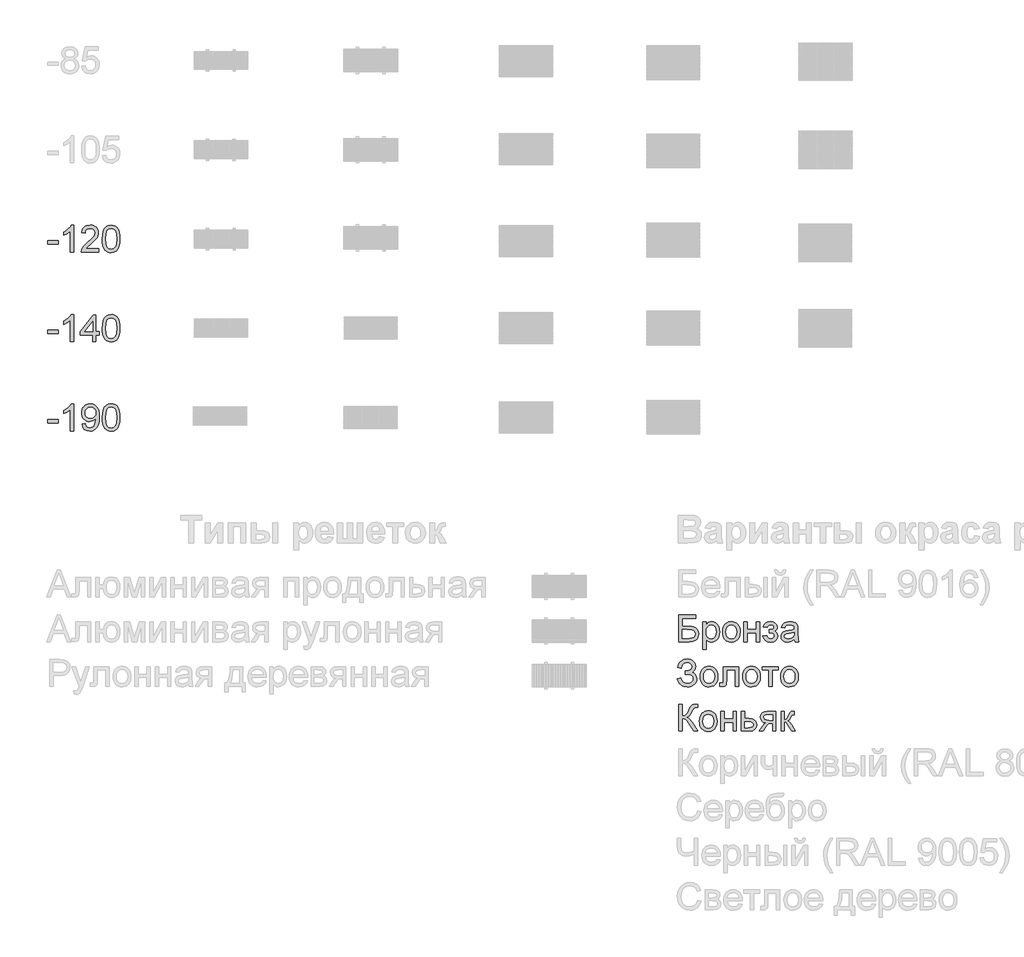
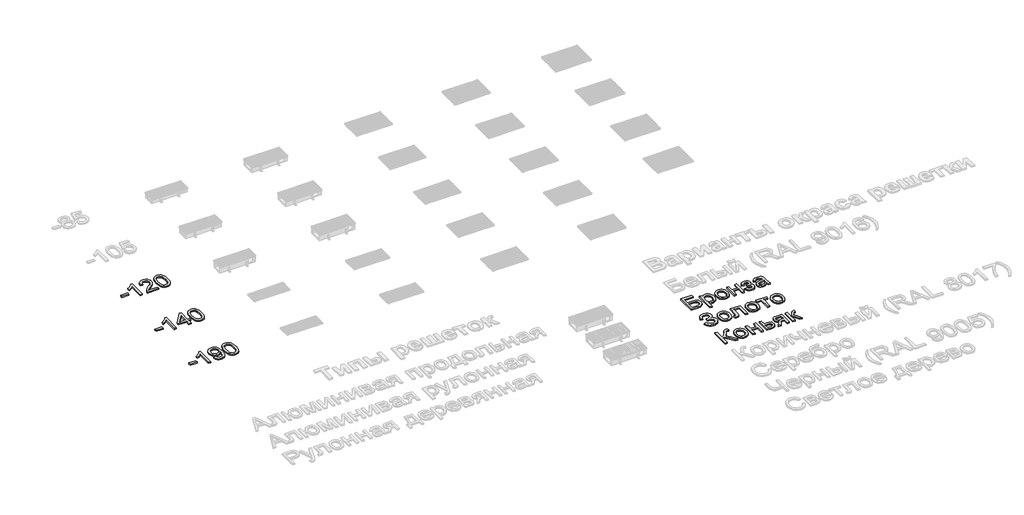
# One storey, part 5 of 12: 6 proxies.
"""IFC4 building model written with IfcOpenShell, lengths in millimetres."""

import ifcopenshell
import ifcopenshell.guid

model = None  # the IFC model being written
_history = None  # IfcOwnerHistory: only IFC2X3 demands one
_inside = {}  # id of a spatial element -> (the spatial element, [elements in it])
_under = {}  # id of a project, library or spatial element -> (it, [spatial elements below it])
_declared = {}  # id of a project -> (the project, [libraries it declares])
_typed = {}  # id of a type object -> (the type object, [elements of that type])
_made_of = {}  # id of a material, layer set ... -> (it, [elements and type objects made of it])


def new_model(schema):
    """Start an empty IFC model of exactly this schema.

    Asked for "IFC4X3", IfcOpenShell would pick the latest addendum, in which some entities
    have other attributes; the version numbers below select the first issue.
    IFC2X3 requires an IfcOwnerHistory on every rooted entity: one is made here for all.
    """
    global model, _history
    if schema == "IFC4X3":
        model = ifcopenshell.file(schema_version=(4, 3, 0, 0))
    else:
        model = ifcopenshell.file(schema=schema)
    _inside.clear()
    _under.clear()
    _declared.clear()
    _typed.clear()
    _made_of.clear()
    _history = None
    if model.schema == "IFC2X3":
        org = make("IfcOrganization", Name="unknown")
        user = make(
            "IfcPersonAndOrganization",
            ThePerson=make("IfcPerson", FamilyName="unknown"),
            TheOrganization=org,
        )
        app = make(
            "IfcApplication",
            ApplicationDeveloper=org,
            Version="unknown",
            ApplicationFullName="unknown",
            ApplicationIdentifier="unknown",
        )
        _history = make(
            "IfcOwnerHistory",
            OwningUser=user,
            OwningApplication=app,
            ChangeAction="ADDED",
            CreationDate=0,
        )
    return model


def make(cls, **values):
    """One entity of the class cls with the attributes given. An attribute that is None is left unset."""
    return model.create_entity(
        cls, **{name: value for name, value in values.items() if value is not None}
    )


def rooted(cls, **values):
    """An entity with a GlobalId (a new one), such as an element, a storey or a relation."""
    return make(cls, GlobalId=ifcopenshell.guid.new(), OwnerHistory=_history, **values)


def si_unit(unit_type, name, prefix=None):
    """IfcSIUnit, for example si_unit("LENGTHUNIT", "METRE", prefix="MILLI")."""
    return make("IfcSIUnit", UnitType=unit_type, Prefix=prefix, Name=name)


def assignment(units):
    """IfcUnitAssignment: the units of a project."""
    return None if units is None else make("IfcUnitAssignment", Units=units)


def point(xyz):
    """IfcCartesianPoint."""
    return None if xyz is None else make("IfcCartesianPoint", Coordinates=xyz)


def direction(xyz):
    """IfcDirection."""
    return None if xyz is None else make("IfcDirection", DirectionRatios=xyz)


def frame(location, z_axis=None, x_axis=None):
    """IfcAxis2Placement3D, a coordinate frame: its origin and axes. An axis left out is left unset."""
    return make(
        "IfcAxis2Placement3D",
        Location=point(location),
        Axis=direction(z_axis),
        RefDirection=direction(x_axis),
    )


def origin():
    """The frame at (0, 0, 0) with its axes left unset."""
    return frame((0.0, 0.0, 0.0))


def origin_with_axes():
    """The frame at (0, 0, 0) with the z axis (0, 0, 1) and the x axis (1, 0, 0) written out."""
    return frame((0.0, 0.0, 0.0), z_axis=(0.0, 0.0, 1.0), x_axis=(1.0, 0.0, 0.0))


def place(relative_to, where):
    """IfcLocalPlacement: puts the frame where relative to a parent placement (None: the world)."""
    return make(
        "IfcLocalPlacement", PlacementRelTo=relative_to, RelativePlacement=where
    )


def context(
    kind, dimensions, precision=None, world=None, true_north=None, identifier=None
):
    """IfcGeometricRepresentationContext, for example the 3D "Model" context."""
    return make(
        "IfcGeometricRepresentationContext",
        ContextIdentifier=identifier,
        ContextType=kind,
        CoordinateSpaceDimension=dimensions,
        Precision=precision,
        WorldCoordinateSystem=world,
        TrueNorth=true_north,
    )


def project(units=None, contexts=None):
    """IfcProject with its units and contexts."""
    return rooted(
        "IfcProject",
        Name="project",
        RepresentationContexts=contexts,
        UnitsInContext=assignment(units),
    )


def spatial(cls, under=None, at=None, **own):
    """A site, building, storey or space (cls), placed at a placement, below another one or the project."""
    s = rooted(cls, ObjectPlacement=at, **own)
    if under is not None:
        _under.setdefault(under.id(), (under, []))[1].append(s)
    return s


def polyline(points):
    """IfcPolyline through the points."""
    return make("IfcPolyline", Points=[point(p) for p in points])


def outline(outer, holes=None, kind="AREA"):
    """IfcArbitraryClosedProfileDef: a profile drawn as a closed curve; with holes, ...WithVoids."""
    if holes is None:
        return make("IfcArbitraryClosedProfileDef", ProfileType=kind, OuterCurve=outer)
    return make(
        "IfcArbitraryProfileDefWithVoids",
        ProfileType=kind,
        OuterCurve=outer,
        InnerCurves=holes,
    )


def extrude(swept, where, along, depth):
    """IfcExtrudedAreaSolid: the profile swept, set in the frame where, extruded along a direction by depth."""
    return make(
        "IfcExtrudedAreaSolid",
        SweptArea=swept,
        Position=where,
        ExtrudedDirection=direction(along),
        Depth=depth,
    )


def shape(context_of_items, identifier, shape_type, items):
    """IfcShapeRepresentation: the items that make up one representation, for example the "Body"."""
    return make(
        "IfcShapeRepresentation",
        ContextOfItems=context_of_items,
        RepresentationIdentifier=identifier,
        RepresentationType=shape_type,
        Items=items,
    )


def made_of(thing, what):
    """Note that an element or type object is made of a material, layer set ...; save() writes the relation."""
    if what is not None:
        _made_of.setdefault(what.id(), (what, []))[1].append(thing)
    return thing


def element(
    cls,
    number,
    at=None,
    inside=None,
    cuts=None,
    type_object=None,
    material=None,
    context=None,
    identifier="Body",
    shape_type=None,
    held_by="IfcProductDefinitionShape",
    body=None,
    shapes=None,
    **own,
):
    """One element of the class cls, such as IfcWall. Its Tag is "e" and its number.

    at: its placement. inside: the storey or other place that contains it. cuts: it is an
    opening in that element (IfcRelVoidsElement). A single representation is given by context,
    identifier, shape_type and body (its items); several are given by shapes. held_by: the class
    of the entity that holds the representations. save() writes the other relations.
    """
    e = rooted(cls, Tag="e%d" % number, ObjectPlacement=at, **own)
    if body is not None:
        shapes = [shape(context, identifier, shape_type, body)]
    if shapes is not None:
        e.Representation = make(held_by, Representations=shapes)
    if inside is not None:
        _inside.setdefault(inside.id(), (inside, []))[1].append(e)
    if cuts is not None:
        rooted(
            "IfcRelVoidsElement", RelatingBuildingElement=cuts, RelatedOpeningElement=e
        )
    if type_object is not None:
        _typed.setdefault(type_object.id(), (type_object, []))[1].append(e)
    return made_of(e, material)


def aggregate(whole, parts):
    """IfcRelAggregates: a whole, such as a stair, and the parts it consists of."""
    return rooted("IfcRelAggregates", RelatingObject=whole, RelatedObjects=parts)


def save(model, path):
    """Write the relations noted so far, then the file.

    IfcRelAggregates (storeys below a building ...), IfcRelContainedInSpatialStructure (elements
    in a storey), IfcRelDefinesByType, IfcRelAssociatesMaterial and IfcRelDeclares: one each for
    every whole, place, type object, material and project.
    """
    for whole, parts in _under.values():
        aggregate(whole, parts)
    for where, things in _inside.values():
        rooted(
            "IfcRelContainedInSpatialStructure",
            RelatedElements=things,
            RelatingStructure=where,
        )
    for kind, things in _typed.values():
        rooted("IfcRelDefinesByType", RelatedObjects=things, RelatingType=kind)
    for what, things in _made_of.values():
        rooted("IfcRelAssociatesMaterial", RelatedObjects=things, RelatingMaterial=what)
    for by, libraries in _declared.values():
        rooted("IfcRelDeclares", RelatingContext=by, RelatedDefinitions=libraries)
    model.write(path)


model = new_model("IFC4")

# Units and contexts
model_context = context("Model", 3, world=origin())
ifc_project = project(units=[si_unit("LENGTHUNIT", "METRE", prefix="MILLI")], contexts=[model_context])

# Site, building, storey
site = spatial("IfcSite", under=ifc_project)
building = spatial("IfcBuilding", under=site)
storey = spatial("IfcBuildingStorey", under=building, Name="Уровень 1", Elevation=0.0)

# Proxies
placement = place(None, origin())
element("IfcBuildingElementProxy", 1, Name="300", ObjectType="300", at=placement, inside=storey, context=model_context, shape_type="SweptSolid", body=[
    extrude(outline(polyline([(40.1853532, -8963.6447251), (40.1853532, -8925.9736087), (157.9075917, -8925.9736087), (157.9075917, -8963.6447251), (40.1853532, -8963.6447251)])), origin_with_axes(), (0.0, 0.0, 1.0), 20.0),
    extrude(outline(polyline([(332.1365046, -9053.1136263), (294.4653883, -9053.1136263), (294.4653883, -8818.2577606), (258.7808348, -8843.6784064), (219.1231557, -8862.6979056), (219.1231557, -8827.0869284), (248.7100652, -8810.9920912), (274.3422432, -8791.8438333), (294.5481618, -8771.4815649), (307.8562929, -8751.7446958), (332.1365046, -8751.7446958), (332.1365046, -9053.1136263)])), origin_with_axes(), (0.0, 0.0, 1.0), 20.0),
    extrude(outline(polyline([(614.6698769, -9015.44251), (614.6698769, -9053.1136263), (416.8965163, -9053.1136263), (420.9432182, -9027.1411574), (430.2322386, -9006.8432683), (443.8254783, -8987.1523845), (463.488771, -8966.5417958), (490.9879501, -8943.4847917), (531.6389106, -8907.3771739), (556.0294869, -8880.7241233), (568.224775, -8859.092662), (572.2898711, -8838.0498119), (568.4547013, -8819.1866626), (556.9491919, -8803.5056926), (539.2632649, -8792.9382822), (516.8868426, -8789.4158121), (493.3883801, -8792.8555088), (475.1322361, -8803.1745988), (463.3508152, -8819.5637416), (459.2765221, -8841.2135971), (421.6054058, -8836.5047075), (430.7380764, -8800.0659959), (439.284435, -8785.5300586), (450.4841425, -8773.4497335), (464.0796814, -8763.9537795), (479.8135345, -8757.1709553), (517.696183, -8751.7446958), (537.8860067, -8753.253012), (555.8547429, -8757.7779606), (571.6023916, -8765.3195415), (585.1289527, -8775.8777547), (595.9929679, -8788.6708511), (603.7529787, -8802.9170814), (608.4089852, -8818.6164455), (609.9609874, -8835.7689435), (608.2871243, -8853.7859642), (603.2655351, -8871.4902853), (594.3535937, -8889.4981089), (581.0086743, -8908.4256376), (559.735898, -8931.0227891), (527.0403857, -8960.0394815), (483.7038866, -8996.275858), (466.7077384, -9015.44251), (614.6698769, -9015.44251)])), origin_with_axes(), (0.0, 0.0, 1.0), 20.0),
    extrude(outline(polyline([(652.3409932, -8904.8571822), (655.1093052, -8856.6186556), (663.4142413, -8818.147396), (677.1730279, -8788.8547921), (696.3028916, -8768.1522328), (720.9417883, -8755.8465801), (751.2276735, -8751.7446958), (774.4410274, -8754.172717), (795.2263601, -8761.4567805), (812.6087844, -8773.3117778), (825.6134129, -8789.4526003), (835.4358622, -8809.7412924), (843.2717487, -8834.0398982), (848.4037025, -8864.8960005), (850.1143538, -8904.8571822), (847.373633, -8952.8197973), (839.1514704, -8991.1990865), (825.4754572, -9020.5192815), (806.3731846, -9041.3046142), (781.6791057, -9053.6930404), (751.2276735, -9057.8225158), (730.479129, -9056.0290911), (712.0850292, -9050.6488169), (696.0453742, -9041.6816933), (682.360164, -9029.1277202), (669.2267768, -9006.4339996), (659.8457859, -8978.1576698), (654.2171914, -8944.2987306), (652.3409932, -8904.8571822)]), holes=[polyline([(690.0121095, -8904.7836058), (694.4266935, -8964.0401982), (699.9449234, -8984.3081969), (707.6704453, -8998.3359972), (727.3889202, -9014.6975489), (751.2276735, -9020.1513995), (775.0664268, -9014.6791548), (794.7849017, -8998.2624208), (802.5104236, -8984.2116278), (808.0286536, -8963.9482277), (812.4432375, -8904.7836058), (808.1758064, -8846.8605857), (802.8415174, -8826.6592656), (795.3735129, -8812.2980722), (775.6918262, -8795.1363772), (750.7862151, -8789.4158121), (727.2049792, -8794.4557955), (708.2590565, -8809.5757455), (700.2760172, -8825.2107303), (694.5738463, -8846.2903686), (690.0121095, -8904.7836058)])]), origin_with_axes(), (0.0, 0.0, 1.0), 20.0),
])
element("IfcBuildingElementProxy", 2, Name="300", ObjectType="300", at=placement, inside=storey, context=model_context, shape_type="SweptSolid", body=[
    extrude(outline(polyline([(40.1853532, -9963.6447251), (40.1853532, -9925.9736087), (157.9075917, -9925.9736087), (157.9075917, -9963.6447251), (40.1853532, -9963.6447251)])), origin_with_axes(), (0.0, 0.0, 1.0), 20.0),
    extrude(outline(polyline([(332.1365046, -10053.1136263), (294.4653883, -10053.1136263), (294.4653883, -9818.2577606), (258.7808348, -9843.6784064), (219.1231557, -9862.6979056), (219.1231557, -9827.0869284), (248.7100652, -9810.9920912), (274.3422432, -9791.8438333), (294.5481618, -9771.4815649), (307.8562929, -9751.7446958), (332.1365046, -9751.7446958), (332.1365046, -10053.1136263)])), origin_with_axes(), (0.0, 0.0, 1.0), 20.0),
    extrude(outline(polyline([(544.0365338, -10053.1136263), (544.0365338, -9982.4802832), (407.4787372, -9982.4802832), (407.4787372, -9944.8091669), (553.4543129, -9756.4535854), (581.7076501, -9756.4535854), (581.7076501, -9944.8091669), (619.3787664, -9944.8091669), (619.3787664, -9982.4802832), (581.7076501, -9982.4802832), (581.7076501, -10053.1136263), (544.0365338, -10053.1136263)]), holes=[polyline([(544.0365338, -9944.8091669), (544.0365338, -9828.4113036), (453.8318686, -9944.8091669), (544.0365338, -9944.8091669)])]), origin_with_axes(), (0.0, 0.0, 1.0), 20.0),
    extrude(outline(polyline([(652.3409932, -9904.8571822), (655.1093052, -9856.6186556), (663.4142413, -9818.147396), (677.1730279, -9788.8547921), (696.3028916, -9768.1522328), (720.9417883, -9755.8465801), (751.2276735, -9751.7446958), (774.4410274, -9754.172717), (795.2263601, -9761.4567805), (812.6087844, -9773.3117778), (825.6134129, -9789.4526003), (835.4358622, -9809.7412924), (843.2717487, -9834.0398982), (848.4037025, -9864.8960005), (850.1143538, -9904.8571822), (847.373633, -9952.8197973), (839.1514704, -9991.1990865), (825.4754572, -10020.5192815), (806.3731846, -10041.3046142), (781.6791057, -10053.6930404), (751.2276735, -10057.8225158), (730.479129, -10056.0290911), (712.0850292, -10050.6488169), (696.0453742, -10041.6816933), (682.360164, -10029.1277202), (669.2267768, -10006.4339996), (659.8457859, -9978.1576698), (654.2171914, -9944.2987306), (652.3409932, -9904.8571822)]), holes=[polyline([(690.0121095, -9904.7836058), (694.4266935, -9964.0401982), (699.9449234, -9984.3081969), (707.6704453, -9998.3359972), (727.3889202, -10014.6975489), (751.2276735, -10020.1513995), (775.0664268, -10014.6791548), (794.7849017, -9998.2624208), (802.5104236, -9984.2116278), (808.0286536, -9963.9482277), (812.4432375, -9904.7836058), (808.1758064, -9846.8605857), (802.8415174, -9826.6592656), (795.3735129, -9812.2980722), (775.6918262, -9795.1363772), (750.7862151, -9789.4158121), (727.2049792, -9794.4557955), (708.2590565, -9809.5757455), (700.2760172, -9825.2107303), (694.5738463, -9846.2903686), (690.0121095, -9904.7836058)])]), origin_with_axes(), (0.0, 0.0, 1.0), 20.0),
])
element("IfcBuildingElementProxy", 3, Name="300", ObjectType="300", at=placement, inside=storey, context=model_context, shape_type="SweptSolid", body=[
    extrude(outline(polyline([(7102.1636245, -13113.7438159), (7290.519206, -13113.7438159), (7290.519206, -13151.4149322), (7139.8347408, -13151.4149322), (7139.8347408, -13240.8838335), (7210.3945075, -13240.8838335), (7245.4720557, -13242.7968198), (7272.5665647, -13248.535779), (7293.3702915, -13259.5906329), (7309.5754934, -13277.4513038), (7320.0049479, -13300.4439285), (7323.4814328, -13326.8946439), (7321.0074264, -13349.1055194), (7313.5854071, -13369.8264728), (7301.2521632, -13387.9722522), (7284.0444829, -13402.4576057), (7257.501797, -13411.9489612), (7217.1635362, -13415.1127464), (7102.1636245, -13415.1127464), (7102.1636245, -13113.7438159)]), holes=[polyline([(7139.8347408, -13377.4416301), (7220.5480505, -13377.4416301), (7249.0772993, -13374.3330272), (7269.4763559, -13365.0072186), (7281.7268263, -13349.4642043), (7285.8103165, -13327.7039843), (7283.4742658, -13311.4987824), (7276.4661138, -13298.1998483), (7265.2916982, -13288.3406108), (7250.4568567, -13282.4544989), (7193.6926649, -13278.5549498), (7139.8347408, -13278.5549498), (7139.8347408, -13377.4416301)])]), origin_with_axes(), (0.0, 0.0, 1.0), 20.0),
    extrude(outline(polyline([(7370.5703282, -13499.8727581), (7370.5703282, -13193.7949381), (7408.2414445, -13193.7949381), (7408.2414445, -13230.7302904), (7420.5287031, -13212.5109346), (7434.2874897, -13199.497109), (7450.3271447, -13191.6888137), (7469.4570085, -13189.0860485), (7494.9328366, -13192.7280803), (7517.2080914, -13203.6541756), (7535.3446738, -13221.2021467), (7548.4044846, -13244.7098062), (7556.2955534, -13272.4665028), (7558.9259097, -13302.7615851), (7555.9552626, -13334.9788508), (7547.0433213, -13363.7932081), (7532.4751942, -13387.7423259), (7512.5359901, -13405.3638735), (7489.3134392, -13416.2071953), (7464.8952717, -13419.8216359), (7447.5772268, -13417.4028118), (7432.116986, -13410.1463394), (7418.8824312, -13399.192653), (7408.2414445, -13385.6821868), (7408.2414445, -13499.8727581), (7370.5703282, -13499.8727581)]), holes=[polyline([(7408.2414445, -13306.2196758), (7412.3157376, -13339.991243), (7424.5386169, -13363.6092671), (7442.5740317, -13377.5152065), (7464.0859313, -13382.1505196), (7485.9473189, -13377.3496596), (7504.4425862, -13362.9470795), (7517.0517416, -13338.4645327), (7521.2547934, -13303.4237726), (7517.1529092, -13269.8361465), (7504.8472564, -13245.8870286), (7486.8394327, -13231.5396308), (7465.6310357, -13226.7571648), (7444.3398653, -13231.8431334), (7425.6422628, -13247.1010392), (7412.5916491, -13272.0526355), (7408.2414445, -13306.2196758)])]), origin_with_axes(), (0.0, 0.0, 1.0), 20.0),
    extrude(outline(polyline([(7591.8881365, -13304.4538422), (7593.925283, -13275.7912363), (7600.0367227, -13251.0925588), (7610.2224554, -13230.3578099), (7624.4824812, -13213.5869894), (7638.8390761, -13202.8678278), (7654.685593, -13195.2112838), (7672.0220321, -13190.6173573), (7690.8483932, -13189.0860485), (7711.6314266, -13190.9507504), (7730.4232988, -13196.544856), (7747.2240097, -13205.8683653), (7762.0335592, -13218.9212784), (7774.120782, -13235.2621367), (7782.7545126, -13254.449482), (7787.934751, -13276.4833143), (7789.6614971, -13301.3636335), (7786.6080765, -13339.4210259), (7777.4478148, -13368.391733), (7762.4474265, -13390.0875737), (7741.8736259, -13406.3203667), (7717.4370644, -13416.4463186), (7690.8483932, -13419.8216359), (7669.7618571, -13417.9638318), (7650.7952409, -13412.3904196), (7633.9485448, -13403.1013992), (7619.2217687, -13390.0967707), (7607.2633046, -13373.5972632), (7598.7215445, -13353.823606), (7593.5964885, -13330.775799), (7591.8881365, -13304.4538422)]), holes=[polyline([(7629.5592528, -13304.3802658), (7633.9186544, -13338.4737297), (7646.9968593, -13362.7631385), (7666.6785461, -13377.3036743), (7690.8483932, -13382.1505196), (7714.9078757, -13377.2760832), (7734.5527742, -13362.6527739), (7747.6309791, -13338.0414684), (7751.9903808, -13303.2030434), (7747.603388, -13270.1028609), (7734.4424096, -13246.144546), (7714.7699199, -13231.6040101), (7690.8483932, -13226.7571648), (7666.6785461, -13231.585616), (7646.9968593, -13246.0709696), (7633.9186544, -13270.305196), (7629.5592528, -13304.3802658)])]), origin_with_axes(), (0.0, 0.0, 1.0), 20.0),
    extrude(outline(polyline([(7832.0415029, -13193.7949381), (7869.7126192, -13193.7949381), (7869.7126192, -13278.5549498), (7968.5992995, -13278.5549498), (7968.5992995, -13193.7949381), (8006.2704158, -13193.7949381), (8006.2704158, -13415.1127464), (7968.5992995, -13415.1127464), (7968.5992995, -13316.2260661), (7869.7126192, -13316.2260661), (7869.7126192, -13415.1127464), (7832.0415029, -13415.1127464), (7832.0415029, -13193.7949381)])), origin_with_axes(), (0.0, 0.0, 1.0), 20.0),
    extrude(outline(polyline([(8114.5748752, -13316.2260661), (8114.5748752, -13278.5549498), (8144.2997404, -13277.0834218), (8159.3093258, -13269.2475353), (8164.6068266, -13261.8990924), (8166.3726601, -13252.8767865), (8164.0090183, -13242.1622234), (8156.9180929, -13233.8572874), (8146.0931652, -13228.5321955), (8132.5275166, -13226.7571648), (8118.8147152, -13228.5229984), (8107.3275999, -13233.8204992), (8098.0661707, -13242.649667), (8091.0304275, -13255.0105021), (8048.6504217, -13250.3016125), (8059.8892166, -13223.5198033), (8076.9773353, -13204.3899395), (8099.9147777, -13192.9120213), (8128.7015438, -13189.0860485), (8160.1922426, -13193.7489528), (8184.0309959, -13207.7376657), (8199.0405813, -13228.2011017), (8204.0437764, -13252.2881753), (8202.2641473, -13264.6490104), (8196.9252598, -13275.6854702), (8188.0271141, -13285.3975549), (8175.56971, -13293.7852644), (8190.1102459, -13304.2515071), (8200.4753211, -13317.2561357), (8206.6833298, -13332.8359382), (8208.752666, -13351.0277028), (8203.5011505, -13378.7568082), (8187.7466041, -13400.7285604), (8162.5558844, -13415.048367), (8128.9958494, -13419.8216359), (8096.1715784, -13415.407052), (8071.0544352, -13402.1633002), (8053.6444198, -13380.0903804), (8043.9415321, -13349.1882928), (8086.321538, -13344.4794033), (8092.6675024, -13360.4086937), (8103.3176862, -13372.2912821), (8117.0396846, -13379.6857102), (8132.601093, -13382.1505196), (8147.7578312, -13379.7868778), (8160.1186662, -13372.6959523), (8168.3408288, -13361.9262069), (8171.0815497, -13348.5261053), (8169.3800954, -13337.9127097), (8164.2757328, -13328.7340539), (8149.7811822, -13318.1390525), (8121.9325151, -13316.0053369), (8114.5748752, -13316.2260661)])), origin_with_axes(), (0.0, 0.0, 1.0), 20.0),
    extrude(outline(polyline([(8397.1082475, -13386.8594092), (8379.1096209, -13402.2920588), (8360.5775654, -13412.3904196), (8341.0890167, -13417.9638318), (8320.2209105, -13419.8216359), (8288.7394088, -13415.3518697), (8265.5168578, -13401.942571), (8251.1970512, -13381.5803025), (8246.4237823, -13356.2516272), (8248.2264041, -13340.6350365), (8253.6342694, -13326.4531855), (8261.9759936, -13314.3130797), (8272.5801921, -13304.8217242), (8298.9573312, -13292.4608892), (8331.551676, -13286.7955065), (8370.0689209, -13280.8358181), (8396.8875183, -13273.8460602), (8397.1082475, -13265.4583507), (8394.5146794, -13248.6461436), (8386.7339752, -13237.6464719), (8369.3331569, -13229.4794916), (8345.0897334, -13226.7571648), (8322.6489317, -13228.5689837), (8306.9771587, -13234.0044402), (8296.2901867, -13244.0568157), (8288.8037881, -13259.7193916), (8251.1326718, -13255.0105021), (8257.6717743, -13234.4091103), (8267.4298442, -13218.2223026), (8281.3173895, -13205.8430734), (8300.2449182, -13196.6644176), (8323.3938927, -13190.9806408), (8349.9457757, -13189.0860485), (8375.4124068, -13190.7599116), (8395.5999313, -13195.7815009), (8410.8210489, -13203.3322788), (8421.3884592, -13212.593708), (8428.3966112, -13224.0440351), (8432.9399538, -13238.1615067), (8434.7793638, -13271.1237335), (8434.7793638, -13317.9918997), (8436.6923502, -13383.4381066), (8444.1971429, -13415.1127464), (8406.5260266, -13415.1127464), (8397.1082475, -13386.8594092)]), holes=[polyline([(8397.1082475, -13311.5171765), (8336.3341419, -13323.0686712), (8303.9237381, -13329.1755123), (8289.2452465, -13339.1083262), (8284.0948986, -13353.6028768), (8286.8999988, -13364.8048835), (8295.3152994, -13373.9835393), (8309.1568595, -13380.1087745), (8328.240738, -13382.1505196), (8348.4742478, -13379.8972424), (8366.3533127, -13373.1374107), (8380.8478633, -13363.1770057), (8390.92783, -13351.3220084), (8395.3975962, -13339.1083262), (8396.8875183, -13322.1857544), (8397.1082475, -13311.5171765)])]), origin_with_axes(), (0.0, 0.0, 1.0), 20.0),
])
element("IfcBuildingElementProxy", 4, Name="300", ObjectType="300", at=placement, inside=storey, context=model_context, shape_type="SweptSolid", body=[
    extrude(outline(polyline([(7088.0369559, -13830.3527347), (7125.7080722, -13820.9349556), (7133.6635203, -13841.3248152), (7148.8478497, -13861.7330689), (7170.7092372, -13877.0461569), (7198.69586, -13882.1505196), (7227.0503648, -13878.3153498), (7248.6910232, -13866.8098404), (7262.4038245, -13849.8780716), (7266.9747583, -13829.7641235), (7261.9807602, -13808.6936822), (7246.998766, -13792.424101), (7223.4083331, -13782.0222376), (7192.5890189, -13778.5549498), (7172.7969676, -13778.5549498), (7172.7969676, -13740.8838335), (7215.4344908, -13737.8304129), (7229.3312332, -13732.4041535), (7241.5173243, -13722.2322163), (7250.0153984, -13708.8321146), (7252.8480897, -13693.7213617), (7249.0772993, -13675.9802525), (7237.7649279, -13660.7223467), (7220.0146216, -13650.2101187), (7196.9300264, -13646.7060427), (7176.0619203, -13649.4007783), (7158.486358, -13657.4849852), (7145.0218769, -13670.0205641), (7136.4870146, -13686.0694162), (7130.4169617, -13712.6304962), (7092.7458454, -13703.2127172), (7104.4490914, -13662.0099337), (7113.8634216, -13645.8231259), (7125.6528899, -13632.5793741), (7139.8174963, -13622.2786782), (7156.3572409, -13614.9210383), (7175.2721236, -13610.5064544), (7196.5621445, -13609.0349264), (7217.0738649, -13610.5639359), (7235.3461038, -13615.1509646), (7251.378861, -13622.7960123), (7265.1721366, -13633.4990791), (7276.2614794, -13646.2484895), (7284.1824387, -13660.032568), (7288.9350142, -13674.8513146), (7290.519206, -13690.7047293), (7288.0543967, -13710.5289703), (7280.6599686, -13727.9895695), (7268.3359217, -13743.0865269), (7251.0822561, -13755.8198425), (7272.0331358, -13765.4675478), (7289.2684072, -13781.7555231), (7300.8015078, -13803.2858169), (7304.6458746, -13828.6604775), (7302.8018661, -13847.2914013), (7297.2698406, -13864.335834), (7288.0497981, -13879.7937756), (7275.1417386, -13893.6652261), (7259.1894556, -13905.1086554), (7240.8367426, -13913.2825335), (7220.0835995, -13918.1868603), (7196.9300264, -13919.8216359), (7158.7254812, -13914.2298296), (7142.368528, -13907.2400717), (7127.8417878, -13897.4544106), (7115.1452604, -13884.8728464), (7104.278946, -13869.495379), (7088.0369559, -13830.3527347)])), origin_with_axes(), (0.0, 0.0, 1.0), 20.0),
    extrude(outline(polyline([(7342.3169909, -13804.4538422), (7344.3541375, -13775.7912363), (7350.4655771, -13751.0925588), (7360.6513099, -13730.3578099), (7374.9113357, -13713.5869894), (7389.2679306, -13702.8678278), (7405.1144475, -13695.2112838), (7422.4508865, -13690.6173573), (7441.2772476, -13689.0860485), (7462.0602811, -13690.9507504), (7480.8521533, -13696.544856), (7497.6528641, -13705.8683653), (7512.4624137, -13718.9212784), (7524.5496365, -13735.2621367), (7533.1833671, -13754.449482), (7538.3636054, -13776.4833143), (7540.0903515, -13801.3636335), (7537.036931, -13839.4210259), (7527.8766693, -13868.391733), (7512.876281, -13890.0875737), (7492.3024804, -13906.3203667), (7467.8659188, -13916.4463186), (7441.2772476, -13919.8216359), (7420.1907115, -13917.9638318), (7401.2240954, -13912.3904196), (7384.3773993, -13903.1013992), (7369.6506232, -13890.0967707), (7357.6921591, -13873.5972632), (7349.150399, -13853.823606), (7344.025343, -13830.775799), (7342.3169909, -13804.4538422)]), holes=[polyline([(7379.9881072, -13804.3802658), (7384.3475089, -13838.4737297), (7397.4257138, -13862.7631385), (7417.1074006, -13877.3036743), (7441.2772476, -13882.1505196), (7465.3367301, -13877.2760832), (7484.9816287, -13862.6527739), (7498.0598336, -13838.0414684), (7502.4192352, -13803.2030434), (7498.0322425, -13770.1028609), (7484.8712641, -13746.144546), (7465.1987744, -13731.6040101), (7441.2772476, -13726.7571648), (7417.1074006, -13731.585616), (7397.4257138, -13746.0709696), (7384.3475089, -13770.305196), (7379.9881072, -13804.3802658)])]), origin_with_axes(), (0.0, 0.0, 1.0), 20.0),
    extrude(outline(polyline([(7601.3059155, -13693.7949381), (7770.8259389, -13693.7949381), (7770.8259389, -13914.8920172), (7733.1548226, -13914.8920172), (7733.1548226, -13731.4660544), (7638.9770319, -13731.4660544), (7638.9770319, -13837.048187), (7636.4386461, -13885.7557632), (7631.6837713, -13896.783026), (7622.4959185, -13906.3203667), (7608.5531909, -13912.9146515), (7589.5336917, -13915.1127464), (7558.9259097, -13913.19976), (7558.9259097, -13877.4416301), (7575.7749051, -13877.4416301), (7592.8078415, -13875.1239735), (7599.6136584, -13867.7663336), (7601.3059155, -13834.9144714), (7601.3059155, -13693.7949381)])), origin_with_axes(), (0.0, 0.0, 1.0), 20.0),
    extrude(outline(polyline([(7817.9148343, -13804.4538422), (7819.9519809, -13775.7912363), (7826.0634205, -13751.0925588), (7836.2491532, -13730.3578099), (7850.5091791, -13713.5869894), (7864.8657739, -13702.8678278), (7880.7122909, -13695.2112838), (7898.0487299, -13690.6173573), (7916.875091, -13689.0860485), (7937.6581245, -13690.9507504), (7956.4499966, -13696.544856), (7973.2507075, -13705.8683653), (7988.0602571, -13718.9212784), (8000.1474799, -13735.2621367), (8008.7812105, -13754.449482), (8013.9614488, -13776.4833143), (8015.6881949, -13801.3636335), (8012.6347744, -13839.4210259), (8003.4745127, -13868.391733), (7988.4741243, -13890.0875737), (7967.9003237, -13906.3203667), (7943.4637622, -13916.4463186), (7916.875091, -13919.8216359), (7895.7885549, -13917.9638318), (7876.8219388, -13912.3904196), (7859.9752427, -13903.1013992), (7845.2484665, -13890.0967707), (7833.2900024, -13873.5972632), (7824.7482424, -13853.823606), (7819.6231863, -13830.775799), (7817.9148343, -13804.4538422)]), holes=[polyline([(7855.5859506, -13804.3802658), (7859.9453523, -13838.4737297), (7873.0235572, -13862.7631385), (7892.7052439, -13877.3036743), (7916.875091, -13882.1505196), (7940.9345735, -13877.2760832), (7960.579472, -13862.6527739), (7973.657677, -13838.0414684), (7978.0170786, -13803.2030434), (7973.6300858, -13770.1028609), (7960.4691074, -13746.144546), (7940.7966177, -13731.6040101), (7916.875091, -13726.7571648), (7892.7052439, -13731.585616), (7873.0235572, -13746.0709696), (7859.9453523, -13770.305196), (7855.5859506, -13804.3802658)])]), origin_with_axes(), (0.0, 0.0, 1.0), 20.0),
    extrude(outline(polyline([(8039.2326426, -13693.7949381), (8218.1704451, -13693.7949381), (8218.1704451, -13731.4660544), (8147.537102, -13731.4660544), (8147.537102, -13915.1127464), (8109.8659857, -13915.1127464), (8109.8659857, -13731.4660544), (8039.2326426, -13731.4660544), (8039.2326426, -13693.7949381)])), origin_with_axes(), (0.0, 0.0, 1.0), 20.0),
    extrude(outline(polyline([(8241.7148928, -13804.4538422), (8243.7520393, -13775.7912363), (8249.8634789, -13751.0925588), (8260.0492117, -13730.3578099), (8274.3092375, -13713.5869894), (8288.6658324, -13702.8678278), (8304.5123493, -13695.2112838), (8321.8487883, -13690.6173573), (8340.6751495, -13689.0860485), (8361.4581829, -13690.9507504), (8380.2500551, -13696.544856), (8397.050766, -13705.8683653), (8411.8603155, -13718.9212784), (8423.9475383, -13735.2621367), (8432.5812689, -13754.449482), (8437.7615072, -13776.4833143), (8439.4882534, -13801.3636335), (8436.4348328, -13839.4210259), (8427.2745711, -13868.391733), (8412.2741828, -13890.0875737), (8391.7003822, -13906.3203667), (8367.2638207, -13916.4463186), (8340.6751495, -13919.8216359), (8319.5886133, -13917.9638318), (8300.6219972, -13912.3904196), (8283.7753011, -13903.1013992), (8269.048525, -13890.0967707), (8257.0900609, -13873.5972632), (8248.5483008, -13853.823606), (8243.4232448, -13830.775799), (8241.7148928, -13804.4538422)]), holes=[polyline([(8279.3860091, -13804.3802658), (8283.7454107, -13838.4737297), (8296.8236156, -13862.7631385), (8316.5053024, -13877.3036743), (8340.6751495, -13882.1505196), (8364.7346319, -13877.2760832), (8384.3795305, -13862.6527739), (8397.4577354, -13838.0414684), (8401.8171371, -13803.2030434), (8397.4301443, -13770.1028609), (8384.2691659, -13746.144546), (8364.5966762, -13731.6040101), (8340.6751495, -13726.7571648), (8316.5053024, -13731.585616), (8296.8236156, -13746.0709696), (8283.7454107, -13770.305196), (8279.3860091, -13804.3802658)])]), origin_with_axes(), (0.0, 0.0, 1.0), 20.0),
])
element("IfcBuildingElementProxy", 5, Name="300", ObjectType="300", at=placement, inside=storey, context=model_context, shape_type="SweptSolid", body=[
    extrude(outline(polyline([(7102.1636245, -14113.7438159), (7139.8347408, -14113.7438159), (7139.8347408, -14245.592723), (7165.3381601, -14243.1003225), (7181.9572292, -14235.6231209), (7195.3941191, -14218.0291645), (7211.3510007, -14185.1864994), (7232.1363334, -14143.0640109), (7242.1611178, -14131.650472), (7255.6807811, -14122.2051018), (7271.7296331, -14115.8591374), (7289.3419836, -14113.7438159), (7314.0636537, -14114.1852743), (7314.0636537, -14151.8563906), (7305.7495206, -14151.6356614), (7297.4353875, -14151.4149322), (7280.181722, -14153.6774065), (7268.0048279, -14160.4648293), (7257.5201911, -14174.7202566), (7245.6376026, -14199.2395916), (7231.0602786, -14229.7737972), (7218.966158, -14246.4756398), (7192.9569009, -14262.0738364), (7207.5480205, -14268.2818451), (7222.0379726, -14279.1067728), (7250.7143741, -14314.6073853), (7314.0636537, -14415.1127464), (7270.3592727, -14415.1127464), (7216.7956542, -14330.2055819), (7196.111489, -14302.9731172), (7179.0877497, -14285.8758015), (7161.6777343, -14276.8534955), (7139.8347408, -14273.8460602), (7139.8347408, -14415.1127464), (7102.1636245, -14415.1127464), (7102.1636245, -14113.7438159)])), origin_with_axes(), (0.0, 0.0, 1.0), 20.0),
    extrude(outline(polyline([(7332.8992119, -14304.4538422), (7334.9363584, -14275.7912363), (7341.0477981, -14251.0925588), (7351.2335308, -14230.3578099), (7365.4935566, -14213.5869894), (7379.8501515, -14202.8678278), (7395.6966684, -14195.2112838), (7413.0331075, -14190.6173573), (7431.8594686, -14189.0860485), (7452.642502, -14190.9507504), (7471.4343742, -14196.544856), (7488.2350851, -14205.8683653), (7503.0446346, -14218.9212784), (7515.1318574, -14235.2621367), (7523.765588, -14254.449482), (7528.9458264, -14276.4833143), (7530.6725725, -14301.3636335), (7527.6191519, -14339.4210259), (7518.4588902, -14368.391733), (7503.4585019, -14390.0875737), (7482.8847013, -14406.3203667), (7458.4481398, -14416.4463186), (7431.8594686, -14419.8216359), (7410.7729325, -14417.9638318), (7391.8063163, -14412.3904196), (7374.9596202, -14403.1013992), (7360.2328441, -14390.0967707), (7348.27438, -14373.5972632), (7339.7326199, -14353.823606), (7334.6075639, -14330.775799), (7332.8992119, -14304.4538422)]), holes=[polyline([(7370.5703282, -14304.3802658), (7374.9297298, -14338.4737297), (7388.0079347, -14362.7631385), (7407.6896215, -14377.3036743), (7431.8594686, -14382.1505196), (7455.9189511, -14377.2760832), (7475.5638496, -14362.6527739), (7488.6420545, -14338.0414684), (7493.0014562, -14303.2030434), (7488.6144634, -14270.1028609), (7475.453485, -14246.144546), (7455.7809953, -14231.6040101), (7431.8594686, -14226.7571648), (7407.6896215, -14231.585616), (7388.0079347, -14246.0709696), (7374.9297298, -14270.305196), (7370.5703282, -14304.3802658)])]), origin_with_axes(), (0.0, 0.0, 1.0), 20.0),
    extrude(outline(polyline([(7573.0525783, -14193.7949381), (7610.7236946, -14193.7949381), (7610.7236946, -14278.5549498), (7709.6103749, -14278.5549498), (7709.6103749, -14193.7949381), (7747.2814912, -14193.7949381), (7747.2814912, -14415.1127464), (7709.6103749, -14415.1127464), (7709.6103749, -14316.2260661), (7610.7236946, -14316.2260661), (7610.7236946, -14415.1127464), (7573.0525783, -14415.1127464), (7573.0525783, -14193.7949381)])), origin_with_axes(), (0.0, 0.0, 1.0), 20.0),
    extrude(outline(polyline([(7803.7881657, -14193.7949381), (7841.459282, -14193.7949381), (7841.459282, -14273.8460602), (7884.8693574, -14273.8460602), (7922.5036855, -14278.5641468), (7937.6512267, -14284.4617551), (7950.3523526, -14292.7184066), (7960.395531, -14303.0489929), (7967.5692299, -14315.1684053), (7973.3081891, -14344.7737089), (7968.4245556, -14371.7302621), (7953.7736551, -14394.4745665), (7942.541758, -14403.5037702), (7928.3806004, -14409.9532014), (7891.2705041, -14415.1127464), (7803.7881657, -14415.1127464), (7803.7881657, -14193.7949381)]), holes=[polyline([(7841.459282, -14377.4416301), (7876.6288007, -14377.4416301), (7903.9164477, -14375.4642644), (7922.0622271, -14369.5321672), (7932.2433614, -14359.4062153), (7935.6370728, -14344.8472853), (7933.1262781, -14332.5416326), (7925.5938943, -14321.6707196), (7909.4530718, -14314.0555623), (7881.1169611, -14311.5171765), (7841.459282, -14311.5171765), (7841.459282, -14377.4416301)])]), origin_with_axes(), (0.0, 0.0, 1.0), 20.0),
    extrude(outline(polyline([(8189.9171078, -14193.7949381), (8189.9171078, -14415.1127464), (8152.2459915, -14415.1127464), (8152.2459915, -14330.3527347), (8131.7181762, -14330.3527347), (8103.7591446, -14335.1352006), (8092.593926, -14345.5646552), (8077.4923701, -14367.288087), (8047.4731993, -14415.1127464), (8003.9159711, -14415.1127464), (8041.7342402, -14354.6329464), (8058.4360828, -14332.9279087), (8073.8135502, -14323.2894004), (8048.0618105, -14315.3983316), (8029.9620163, -14300.4071403), (8019.2566503, -14280.4679361), (8015.6881949, -14257.7328288), (8020.5626313, -14231.944301), (8035.1859407, -14211.5268502), (8059.043088, -14198.2279161), (8091.6190387, -14193.7949381), (8189.9171078, -14193.7949381)]), holes=[polyline([(8152.2459915, -14231.4660544), (8102.5819222, -14231.4660544), (8076.9313501, -14233.6457552), (8062.3724201, -14240.1848577), (8055.6125884, -14249.648622), (8053.3593112, -14260.6023084), (8056.6794462, -14274.9589033), (8066.6398512, -14284.9193083), (8085.0431481, -14290.7410409), (8113.6919584, -14292.6816184), (8152.2459915, -14292.6816184), (8152.2459915, -14231.4660544)])]), origin_with_axes(), (0.0, 0.0, 1.0), 20.0),
    extrude(outline(polyline([(8246.4237823, -14193.7949381), (8284.0948986, -14193.7949381), (8284.0948986, -14287.9727288), (8299.4171837, -14286.2804717), (8309.3316035, -14281.2037001), (8318.105589, -14267.9599483), (8330.0065716, -14241.7667503), (8347.1866608, -14207.7376657), (8362.343399, -14196.6644176), (8389.8977604, -14193.7949381), (8397.1082475, -14193.7949381), (8397.1082475, -14231.6867836), (8386.9547044, -14231.4660544), (8368.5606047, -14235.4391799), (8355.6111585, -14260.2344264), (8340.4176321, -14287.0530239), (8319.1172645, -14300.1864111), (8331.0550353, -14305.4885103), (8342.8824414, -14314.8465086), (8366.2061599, -14345.7302021), (8406.5260266, -14415.1127464), (8363.7045624, -14415.1127464), (8324.1940361, -14347.2017301), (8304.3284083, -14318.4701462), (8295.039388, -14313.255419), (8284.0948986, -14311.5171765), (8284.0948986, -14415.1127464), (8246.4237823, -14415.1127464), (8246.4237823, -14193.7949381)])), origin_with_axes(), (0.0, 0.0, 1.0), 20.0),
])
element("IfcBuildingElementProxy", 6, Name="300", ObjectType="300", at=placement, inside=storey, context=model_context, shape_type="SweptSolid", body=[
    extrude(outline(polyline([(40.1853532, -10963.6447251), (40.1853532, -10925.9736087), (157.9075917, -10925.9736087), (157.9075917, -10963.6447251), (40.1853532, -10963.6447251)])), origin_with_axes(), (0.0, 0.0, 1.0), 20.0),
    extrude(outline(polyline([(332.1365046, -11053.1136263), (294.4653883, -11053.1136263), (294.4653883, -10818.2577606), (258.7808348, -10843.6784064), (219.1231557, -10862.6979056), (219.1231557, -10827.0869284), (248.7100652, -10810.9920912), (274.3422432, -10791.8438333), (294.5481618, -10771.4815649), (307.8562929, -10751.7446958), (332.1365046, -10751.7446958), (332.1365046, -11053.1136263)])), origin_with_axes(), (0.0, 0.0, 1.0), 20.0),
    extrude(outline(polyline([(426.3142954, -10977.7713937), (463.9854117, -10973.0625041), (470.4233466, -10994.4456451), (480.9079835, -11009.0045751), (495.1818049, -11017.3646934), (512.9872934, -11020.1513995), (528.9625691, -11018.3579748), (543.4847108, -11012.9777006), (555.5512403, -11004.5991882), (564.159679, -10993.8110487), (576.4837258, -10961.0695511), (581.9283793, -10917.3651701), (581.7076501, -10910.0075302), (568.6570364, -10925.9368205), (551.5781147, -10938.555173), (531.7032899, -10946.7773356), (510.2649667, -10949.5180564), (492.3698069, -10947.8441934), (475.9139854, -10942.8226041), (460.8975022, -10934.4532887), (447.3203573, -10922.7362472), (436.070066, -10908.2830833), (428.0341437, -10891.7054009), (423.2125903, -10873.0032), (421.6054058, -10852.1764805), (423.2907652, -10830.6553838), (428.3468434, -10811.341579), (436.7736403, -10794.2350663), (448.5711561, -10779.3358455), (462.9070576, -10767.2647175), (478.9490118, -10758.6424832), (496.6970188, -10753.4691427), (516.1510786, -10751.7446958), (544.248066, -10755.6810332), (569.8250617, -10767.4900452), (591.2173997, -10786.5831208), (606.760414, -10812.3716486), (616.2241783, -10848.019414), (619.3787664, -10896.6902019), (616.2333754, -10948.2948488), (606.7972022, -10988.1824541), (591.1530204, -11018.1556397), (569.3836033, -11040.0170272), (542.4270501, -11053.3711437), (511.2214599, -11057.8225158), (479.0133912, -11052.5710003), (453.3168338, -11036.8164539), (435.3457984, -11011.5521579), (426.3142954, -10977.7713937)]), holes=[polyline([(581.7076501, -10851.2935637), (577.6425541, -10825.7625533), (565.4472659, -10806.1176547), (546.5197373, -10793.5912728), (522.2579197, -10789.4158121), (497.0947912, -10793.9131695), (476.9348579, -10807.4052417), (463.6911061, -10828.0526187), (459.2765221, -10854.0158905), (463.4519828, -10877.2936237), (475.9783647, -10895.7704969), (495.6416574, -10907.8278293), (521.2278501, -10911.8469401), (545.2965297, -10907.8278293), (564.6747138, -10895.7704969), (577.449416, -10876.613042), (581.7076501, -10851.2935637)])]), origin_with_axes(), (0.0, 0.0, 1.0), 20.0),
    extrude(outline(polyline([(652.3409932, -10904.8571822), (655.1093052, -10856.6186556), (663.4142413, -10818.147396), (677.1730279, -10788.8547921), (696.3028916, -10768.1522328), (720.9417883, -10755.8465801), (751.2276735, -10751.7446958), (774.4410274, -10754.172717), (795.2263601, -10761.4567805), (812.6087844, -10773.3117778), (825.6134129, -10789.4526003), (835.4358622, -10809.7412924), (843.2717487, -10834.0398982), (848.4037025, -10864.8960005), (850.1143538, -10904.8571822), (847.373633, -10952.8197973), (839.1514704, -10991.1990865), (825.4754572, -11020.5192815), (806.3731846, -11041.3046142), (781.6791057, -11053.6930404), (751.2276735, -11057.8225158), (730.479129, -11056.0290911), (712.0850292, -11050.6488169), (696.0453742, -11041.6816933), (682.360164, -11029.1277202), (669.2267768, -11006.4339996), (659.8457859, -10978.1576698), (654.2171914, -10944.2987306), (652.3409932, -10904.8571822)]), holes=[polyline([(690.0121095, -10904.7836058), (694.4266935, -10964.0401982), (699.9449234, -10984.3081969), (707.6704453, -10998.3359972), (727.3889202, -11014.6975489), (751.2276735, -11020.1513995), (775.0664268, -11014.6791548), (794.7849017, -10998.2624208), (802.5104236, -10984.2116278), (808.0286536, -10963.9482277), (812.4432375, -10904.7836058), (808.1758064, -10846.8605857), (802.8415174, -10826.6592656), (795.3735129, -10812.2980722), (775.6918262, -10795.1363772), (750.7862151, -10789.4158121), (727.2049792, -10794.4557955), (708.2590565, -10809.5757455), (700.2760172, -10825.2107303), (694.5738463, -10846.2903686), (690.0121095, -10904.7836058)])]), origin_with_axes(), (0.0, 0.0, 1.0), 20.0),
])

save(model, "model.ifc")
